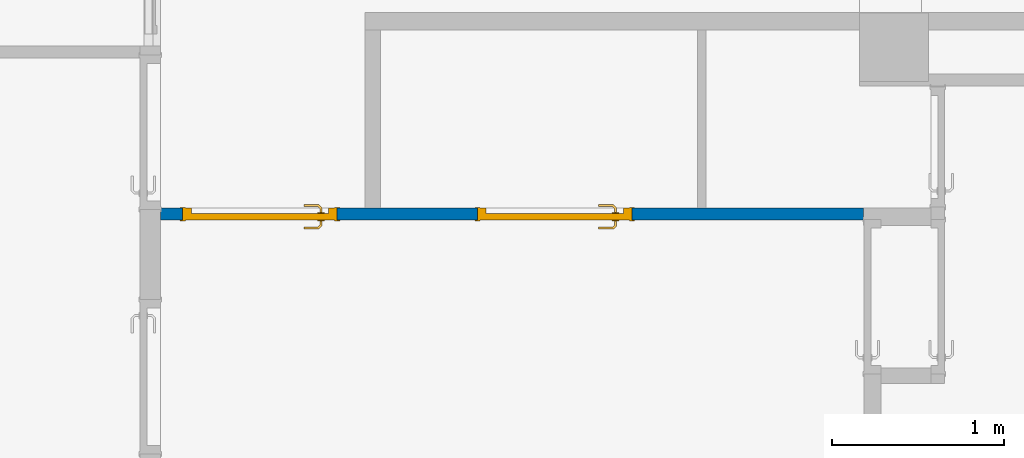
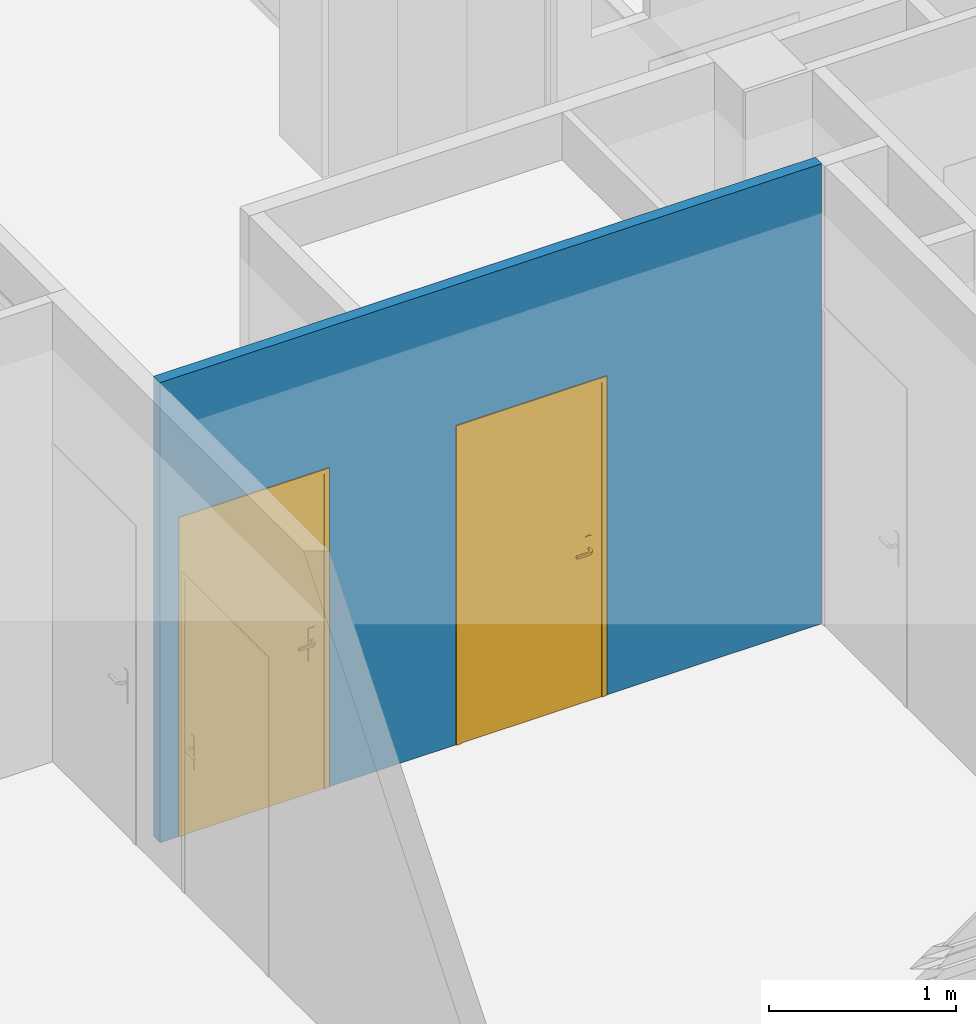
# One storey, part 56 of 97: 2 doors, 1 wall, 2 openings.
"""IFC4 building model written with IfcOpenShell, lengths in metres."""

from ifc_helpers import new_model, entity, si_unit, converted_unit, derived_unit, direction, frame, origin, place, context, subcontext, project, spatial, indexed_curve, outline, extrude, polygons, source, transform, mapped, material, material_list, layer, layer_set, constituent, constituent_set, type_object, type_shapes, element, fill, save


model = new_model("IFC4")

# Units and contexts
model_context = context("Model", 3, precision=1e-05, world=origin(), true_north=direction((6.12303176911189e-17, 1.0)))
body_context = subcontext(model_context, "Body", "Model", "MODEL_VIEW")
ifc_project = project(units=[si_unit("LENGTHUNIT", "METRE"), si_unit("AREAUNIT", "SQUARE_METRE"), si_unit("VOLUMEUNIT", "CUBIC_METRE"), converted_unit("PLANEANGLEUNIT", "DEGREE", entity("IfcRatioMeasure", 0.0174532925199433), si_unit("PLANEANGLEUNIT", "RADIAN"), dimensions=[0, 0, 0, 0, 0, 0, 0]), si_unit("MASSUNIT", "GRAM", prefix="KILO"), derived_unit("MASSDENSITYUNIT", [(si_unit("MASSUNIT", "GRAM", prefix="KILO"), 1), (si_unit("LENGTHUNIT", "METRE"), -3)]), derived_unit("MOMENTOFINERTIAUNIT", [(si_unit("LENGTHUNIT", "METRE"), 4)]), si_unit("TIMEUNIT", "SECOND"), si_unit("FREQUENCYUNIT", "HERTZ"), si_unit("THERMODYNAMICTEMPERATUREUNIT", "DEGREE_CELSIUS"), derived_unit("THERMALTRANSMITTANCEUNIT", [(si_unit("MASSUNIT", "GRAM", prefix="KILO"), 1), (si_unit("THERMODYNAMICTEMPERATUREUNIT", "KELVIN"), -1), (si_unit("TIMEUNIT", "SECOND"), -3)]), derived_unit("VOLUMETRICFLOWRATEUNIT", [(si_unit("LENGTHUNIT", "METRE"), 3), (si_unit("TIMEUNIT", "SECOND"), -1)]), si_unit("ELECTRICCURRENTUNIT", "AMPERE"), si_unit("ELECTRICVOLTAGEUNIT", "VOLT"), si_unit("POWERUNIT", "WATT"), si_unit("FORCEUNIT", "NEWTON", prefix="KILO"), si_unit("ILLUMINANCEUNIT", "LUX"), si_unit("LUMINOUSFLUXUNIT", "LUMEN"), si_unit("LUMINOUSINTENSITYUNIT", "CANDELA"), derived_unit("USERDEFINED", [(si_unit("MASSUNIT", "GRAM", prefix="KILO"), -1), (si_unit("LENGTHUNIT", "METRE"), -2), (si_unit("TIMEUNIT", "SECOND"), 3), (si_unit("LUMINOUSFLUXUNIT", "LUMEN"), 1)]), derived_unit("LINEARVELOCITYUNIT", [(si_unit("LENGTHUNIT", "METRE"), 1), (si_unit("TIMEUNIT", "SECOND"), -1)]), si_unit("PRESSUREUNIT", "PASCAL"), derived_unit("USERDEFINED", [(si_unit("LENGTHUNIT", "METRE"), -2), (si_unit("MASSUNIT", "GRAM", prefix="KILO"), 1), (si_unit("TIMEUNIT", "SECOND"), -2)]), derived_unit("LINEARFORCEUNIT", [(si_unit("MASSUNIT", "GRAM", prefix="KILO"), 1), (si_unit("LENGTHUNIT", "METRE"), 1), (si_unit("TIMEUNIT", "SECOND"), -2), (si_unit("LENGTHUNIT", "METRE"), -1)]), derived_unit("PLANARFORCEUNIT", [(si_unit("MASSUNIT", "GRAM", prefix="KILO"), 1), (si_unit("LENGTHUNIT", "METRE"), 1), (si_unit("TIMEUNIT", "SECOND"), -2), (si_unit("LENGTHUNIT", "METRE"), -2)])], contexts=[model_context])

# Site, building, storey
site_placement = place(None, origin())
site = spatial("IfcSite", under=ifc_project, at=site_placement, Name="Default", CompositionType="ELEMENT")
building_placement = place(site_placement, origin())
building = spatial("IfcBuilding", under=site, at=building_placement, Name="HOTEL CONSULAIRE BOULOGNE SUR MER", CompositionType="ELEMENT")
storey_placement = place(building_placement, frame((0.0, 0.0, 3.62152697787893)))
storey = spatial("IfcBuildingStorey", under=building, at=storey_placement, Name="Niveau 1", CompositionType="ELEMENT", Elevation=3.62152697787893)

# Wall, openings, doors
ifc_material_1 = material(Name="Mur par défaut", Category="Divers")
ifc_layer = layer(ifc_material_1, 0.07, Name="Mur par défaut", Category="Divers")
ifc_layer_set = layer_set([ifc_layer], Name="Mur de base:Int. Plâtre 70 mm")
wall_type = type_object("IfcWallType", Name="Mur de base:Int. Plâtre 70 mm", PredefinedType="NOTDEFINED", material=ifc_layer_set)
wall_placement = place(storey_placement, frame((-9.60440198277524, -24.988647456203, 0.0)))
wall = element("IfcWall", 1, at=wall_placement, inside=storey, type_object=wall_type, material=ifc_layer_set, Name="Mur de base:Int. Plâtre 70 mm", ObjectType="Mur de base:Int. Plâtre 70 mm", PredefinedType="NOTDEFINED", context=body_context, shape_type="Tessellation", body=[
    polygons([(0.128999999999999, -0.0350000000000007, 0.0), (-2.36826614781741e-15, -0.0350000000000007, 0.0), (-2.56762433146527e-15, 0.0350000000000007, 0.0), (0.128999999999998, 0.0350000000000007, 0.0), (1.8456288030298, -0.0350000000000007, 0.0), (1.029, -0.035000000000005, 0.0), (1.029, 0.0350000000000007, 0.0), (1.8456288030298, 0.0350000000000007, 0.0), (4.09362880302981, -0.035000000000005, 3.01021454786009), (-2.02531889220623e-16, -0.0350000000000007, 3.01021454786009), (0.128999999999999, -0.0350000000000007, 2.075), (1.029, -0.035000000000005, 2.075), (1.84562880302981, -0.0350000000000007, 2.075), (2.74562880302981, -0.035000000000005, 2.075), (2.74562880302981, -0.035000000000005, 0.0), (4.09362880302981, -0.035000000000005, 0.0), (6.8097705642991e-16, 0.0350000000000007, 3.01021454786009), (1.1912647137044, 0.0349999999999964, 3.01021454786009), (1.2812647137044, 0.0350000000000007, 3.01021454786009), (3.12762880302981, 0.0350000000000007, 3.01021454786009), (3.17762880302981, 0.0350000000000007, 3.01021454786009), (4.0936288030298, 0.0349999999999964, 3.01021454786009), (4.0936288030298, 0.0349999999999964, 0.0), (3.17762880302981, 0.0350000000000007, 0.0), (3.12762880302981, 0.0350000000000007, 0.0), (2.74562880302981, 0.0349999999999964, 0.0), (2.74562880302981, 0.0349999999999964, 2.075), (1.84562880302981, 0.0350000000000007, 2.075), (1.029, 0.0349999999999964, 2.075), (0.128999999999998, 0.0350000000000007, 2.075)], [[[4, 1, 2, 3]], [[8, 5, 6, 7]], [[14, 13, 28, 27]], [[12, 11, 30, 29]], [[24, 23, 16, 15, 26, 25]], [[11, 12, 6, 5, 13, 14, 15, 16, 9, 10, 2, 1]], [[27, 28, 8, 7, 29, 30, 4, 3, 17, 18, 19, 20, 21, 22, 23, 24, 25, 26]], [[9, 16, 23, 22]], [[13, 5, 8, 28]], [[11, 1, 4, 30]], [[9, 22, 21, 20, 19, 18, 17, 10]], [[15, 14, 27, 26]], [[6, 12, 29, 7]], [[10, 17, 3, 2]]], closed=True),
])
opening_1_placement = place(wall_placement, frame((2.7456288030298, 0.0349999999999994, 0.0)))
opening_1 = element("IfcOpeningElement", 2, at=opening_1_placement, cuts=wall, Name="Int. Simple:PP (0.83m x 2.04m):1", ObjectType="Opening", PredefinedType="OPENING", context=body_context, shape_type="SweptSolid", body=[
    extrude(outline(indexed_curve([(0.0, 0.9), (0.0, 0.0), (2.075, 0.0), (2.075, 0.9), (0.0, 0.9)], self_intersect=False)), frame((0.0, 0.0, 0.0), z_axis=(0.0, -1.0, 0.0), x_axis=(0.0, 0.0, 1.0)), (0.0, 0.0, 1.0), 0.07),
])
opening_2_placement = place(wall_placement, frame((1.029, 0.0349999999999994, 0.0)))
opening_2 = element("IfcOpeningElement", 3, at=opening_2_placement, cuts=wall, Name="Int. Simple:PP (0.83m x 2.04m):1", ObjectType="Opening", PredefinedType="OPENING", context=body_context, shape_type="SweptSolid", body=[
    extrude(outline(indexed_curve([(0.0, 0.9), (0.0, 0.0), (2.075, 0.0), (2.075, 0.9), (0.0, 0.9)], self_intersect=False)), frame((0.0, 0.0, 0.0), z_axis=(0.0, -1.0, 0.0), x_axis=(0.0, 0.0, 1.0)), (0.0, 0.0, 1.0), 0.07),
])
ifc_material_2 = material(Name="Finition Peinture - Blanc satiné", Category="Peinture")
ifc_constituent_1 = constituent(ifc_material_2, Name="Finition Peinture - Blanc satiné", Category="Matériaux")
ifc_material_3 = material(Name="Bois - Panneau de porte", Category="Bois")
ifc_constituent_2 = constituent(ifc_material_3, Name="Bois - Panneau de porte", Category="Matériaux")
ifc_material_4 = material(Name="Bois - Cadre de porte", Category="Bois")
ifc_constituent_3 = constituent(ifc_material_4, Name="Bois - Cadre de porte", Category="Matériaux")
ifc_constituent_set_1 = constituent_set(constituents=[ifc_constituent_1, ifc_constituent_2, ifc_constituent_3], Name="MaterialConstituentSet")
ifc_material_list = material_list([ifc_material_4, ifc_material_4, ifc_material_3, ifc_material_2])
door_type = type_object("IfcDoorType", Name="Int. Simple:PP (0.83m x 2.04m)", OperationType="NOTDEFINED", PredefinedType="DOOR", material=ifc_material_list)
shared_shape = source(origin(), body_context, "Body", "Tessellation", [
    polygons([(0.895000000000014, -0.00500000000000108, 0.870000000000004), (0.895000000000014, -0.00500000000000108, 1.08), (0.885352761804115, -0.00500000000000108, 1.08399601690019), (0.875000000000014, -0.00500000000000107, 1.08535898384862), (0.864647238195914, -0.00500000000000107, 1.08399601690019), (0.855000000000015, -0.00500000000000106, 1.08), (0.855000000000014, -0.00500000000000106, 0.870000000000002), (0.864647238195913, -0.00500000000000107, 0.866003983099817), (0.875000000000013, -0.00500000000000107, 0.86464101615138), (0.885352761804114, -0.00500000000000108, 0.866003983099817), (0.895000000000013, -1.07440722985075e-15, 0.870000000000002), (0.885352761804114, -1.07017728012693e-15, 0.866003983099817), (0.875000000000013, -1.06594733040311e-15, 0.86464101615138), (0.864647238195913, -1.06171738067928e-15, 0.866003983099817), (0.855000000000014, -1.05748743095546e-15, 0.870000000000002), (0.855000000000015, -1.05748743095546e-15, 1.08), (0.864647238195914, -1.06171738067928e-15, 1.08399601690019), (0.875000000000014, -1.06594733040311e-15, 1.08535898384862), (0.885352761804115, -1.07017728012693e-15, 1.08399601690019), (0.895000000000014, -1.07440722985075e-15, 1.08)], [[[1, 2, 3, 4, 5, 6, 7, 8, 9, 10]], [[20, 11, 12, 13, 14, 15, 16, 17, 18, 19]], [[10, 12, 11, 1]], [[9, 13, 12, 10]], [[8, 14, 13, 9]], [[8, 7, 15, 14]], [[15, 7, 6, 16]], [[5, 17, 16, 6]], [[4, 18, 17, 5]], [[3, 19, 18, 4]], [[3, 2, 20, 19]], [[11, 20, 2, 1]]], closed=True),
    polygons([(0.855000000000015, 0.0399999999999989, 1.08), (0.855000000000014, 0.0399999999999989, 0.870000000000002), (0.864647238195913, 0.0399999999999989, 0.866003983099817), (0.875000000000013, 0.0399999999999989, 0.86464101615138), (0.885352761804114, 0.0399999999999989, 0.866003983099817), (0.895000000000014, 0.0399999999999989, 0.870000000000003), (0.895000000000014, 0.0399999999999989, 1.08), (0.885352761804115, 0.0399999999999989, 1.08399601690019), (0.875000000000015, 0.0399999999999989, 1.08535898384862), (0.864647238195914, 0.0399999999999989, 1.08399601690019), (0.855000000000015, 0.0449999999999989, 1.08), (0.864647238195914, 0.0449999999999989, 1.08399601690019), (0.875000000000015, 0.0449999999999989, 1.08535898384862), (0.885352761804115, 0.0449999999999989, 1.08399601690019), (0.895000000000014, 0.0449999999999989, 1.08), (0.895000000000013, 0.0449999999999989, 0.870000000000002), (0.885352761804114, 0.0449999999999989, 0.866003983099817), (0.875000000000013, 0.0449999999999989, 0.86464101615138), (0.864647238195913, 0.0449999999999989, 0.866003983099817), (0.855000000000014, 0.0449999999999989, 0.870000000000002)], [[[6, 7, 8, 9, 10, 1, 2, 3, 4, 5]], [[13, 14, 15, 16, 17, 18, 19, 20, 11, 12]], [[10, 12, 11, 1]], [[9, 13, 12, 10]], [[8, 14, 13, 9]], [[8, 7, 15, 14]], [[16, 15, 7, 6]], [[5, 17, 16, 6]], [[4, 18, 17, 5]], [[3, 19, 18, 4]], [[3, 2, 20, 19]], [[20, 2, 1, 11]]], closed=True),
    polygons([(0.881000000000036, -0.00500000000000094, 1.00699999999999), (0.881000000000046, -0.00500000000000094, 0.992999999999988), (0.877025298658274, -0.00500000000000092, 0.99221955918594), (0.872974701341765, -0.00500000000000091, 0.992219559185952), (0.868999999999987, -0.00500000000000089, 0.993000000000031), (0.868999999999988, -0.00500000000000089, 1.007), (0.872974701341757, -0.00500000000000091, 1.00778044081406), (0.877025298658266, -0.00500000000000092, 1.00778044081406), (0.868999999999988, -0.0276803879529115, 1.007), (0.872974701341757, -0.0293267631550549, 1.00778044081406), (0.877025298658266, -0.0310045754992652, 1.00778044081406), (0.881000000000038, -0.0326509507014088, 1.007), (0.868999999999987, -0.0276803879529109, 0.993000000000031), (0.881000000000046, -0.0326509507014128, 0.992999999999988), (0.877025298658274, -0.0310045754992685, 0.99221955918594), (0.872974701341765, -0.0293267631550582, 0.992219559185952), (0.85765222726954, -0.0390281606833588, 1.007), (0.859298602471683, -0.0430028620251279, 1.00778044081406), (0.860976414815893, -0.0470534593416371, 1.00778044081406), (0.862622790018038, -0.051028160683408, 1.007), (0.857652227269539, -0.0390281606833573, 0.993000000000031), (0.862622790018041, -0.0510281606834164, 0.992999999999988), (0.860976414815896, -0.0470534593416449, 0.99221955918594), (0.859298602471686, -0.0430028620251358, 0.992219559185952), (0.774981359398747, -0.0510281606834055, 1.007), (0.774981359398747, -0.0470534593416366, 1.00778044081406), (0.774981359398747, -0.0430028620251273, 1.00778044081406), (0.774981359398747, -0.0390281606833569, 1.00699999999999), (0.774981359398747, -0.0390281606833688, 0.993000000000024), (0.774981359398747, -0.0430028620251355, 0.992219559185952), (0.774981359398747, -0.0470534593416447, 0.99221955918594), (0.774981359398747, -0.0510281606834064, 0.992999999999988), (0.822692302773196, -0.051028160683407, 1.007), (0.81713998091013, -0.045028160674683, 1.0078786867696), (0.816316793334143, -0.039028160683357, 1.007), (0.822692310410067, -0.0510281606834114, 0.992999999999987), (0.817139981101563, -0.0450281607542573, 0.992121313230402), (0.816316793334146, -0.039028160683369, 0.993000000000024)], [[[7, 8, 1, 2, 3, 4, 5, 6]], [[17, 21, 38, 29, 28, 35]], [[1, 8, 11, 12]], [[8, 7, 10, 18, 19, 11]], [[7, 6, 9, 10]], [[13, 9, 6, 5]], [[25, 26, 27, 28, 29, 30, 31, 32]], [[4, 16, 13, 5]], [[4, 3, 15, 23, 24, 16]], [[2, 14, 15, 3]], [[12, 14, 2, 1]], [[12, 11, 19, 20]], [[10, 9, 17, 18]], [[21, 17, 9, 13]], [[13, 16, 24, 21]], [[15, 14, 22, 23]], [[20, 22, 14, 12]], [[34, 26, 33]], [[33, 26, 25]], [[33, 20, 19]], [[18, 35, 34]], [[35, 18, 17]], [[28, 27, 35]], [[34, 27, 26]], [[34, 35, 27]], [[34, 33, 19]], [[18, 34, 19]], [[37, 30, 38]], [[31, 37, 36]], [[24, 38, 21]], [[30, 29, 38]], [[31, 36, 32]], [[36, 23, 22]], [[37, 23, 36]], [[37, 24, 23]], [[37, 38, 24]], [[30, 37, 31]], [[22, 20, 33, 25, 32, 36]]], closed=True),
    polygons([(0.868999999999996, 0.0449999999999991, 0.993000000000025), (0.872974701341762, 0.0449999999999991, 0.992219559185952), (0.877025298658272, 0.044999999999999, 0.99221955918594), (0.881000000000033, 0.044999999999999, 0.992999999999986), (0.881000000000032, 0.044999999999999, 1.007), (0.877025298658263, 0.044999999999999, 1.00778044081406), (0.872974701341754, 0.0449999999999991, 1.00778044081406), (0.868999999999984, 0.0449999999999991, 1.007), (0.868999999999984, 0.067485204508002, 1.007), (0.868999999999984, 0.0674852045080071, 0.993000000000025), (0.881000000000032, 0.0724557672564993, 1.007), (0.877025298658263, 0.070809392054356, 1.00778044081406), (0.872974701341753, 0.0691315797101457, 1.00778044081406), (0.881000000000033, 0.0724557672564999, 0.992999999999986), (0.872974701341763, 0.0691315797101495, 0.992219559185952), (0.877025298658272, 0.0708093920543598, 0.99221955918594), (0.857514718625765, 0.0789704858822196, 1.007), (0.857514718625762, 0.0789704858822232, 0.993000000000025), (0.862485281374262, 0.0909704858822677, 1.007), (0.860838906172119, 0.0869957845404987, 1.00778044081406), (0.859161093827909, 0.0829451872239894, 1.00778044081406), (0.862485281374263, 0.0909704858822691, 0.992999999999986), (0.859161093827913, 0.0829451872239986, 0.992219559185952), (0.860838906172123, 0.0869957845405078, 0.99221955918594), (0.77495421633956, 0.0789704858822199, 0.993000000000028), (0.77495421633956, 0.0789704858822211, 1.007), (0.77495421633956, 0.0829451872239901, 1.00778044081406), (0.77495421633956, 0.0869957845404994, 1.00778044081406), (0.77495421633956, 0.0909704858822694, 1.007), (0.77495421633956, 0.0909704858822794, 0.992999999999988), (0.77495421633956, 0.086995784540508, 0.99221955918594), (0.77495421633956, 0.0829451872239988, 0.992219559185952), (0.822554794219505, 0.0909704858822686, 1.007), (0.817057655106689, 0.0849704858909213, 1.0078786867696), (0.816234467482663, 0.0789704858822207, 1.007), (0.822554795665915, 0.0909704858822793, 0.992999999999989), (0.817057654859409, 0.0849704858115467, 0.992121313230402), (0.816234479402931, 0.0789704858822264, 0.993000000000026)], [[[2, 3, 4, 5, 6, 7, 8, 1]], [[18, 17, 35, 26, 25, 38]], [[9, 10, 1, 8]], [[27, 28, 29, 30, 31, 32, 25, 26]], [[7, 13, 9, 8]], [[7, 6, 12, 20, 21, 13]], [[5, 11, 12, 6]], [[11, 5, 4, 14]], [[4, 3, 16, 14]], [[3, 2, 15, 23, 24, 16]], [[2, 1, 10, 15]], [[17, 18, 10, 9]], [[9, 13, 21, 17]], [[11, 19, 20, 12]], [[22, 19, 11, 14]], [[14, 16, 24, 22]], [[15, 10, 18, 23]], [[34, 27, 35]], [[28, 34, 33]], [[21, 35, 17]], [[27, 26, 35]], [[28, 33, 29]], [[33, 20, 19]], [[34, 20, 33]], [[34, 21, 20]], [[34, 35, 21]], [[27, 34, 28]], [[19, 22, 36, 30, 29, 33]], [[37, 31, 36]], [[36, 31, 30]], [[36, 22, 24]], [[23, 38, 37]], [[38, 23, 18]], [[25, 32, 38]], [[37, 32, 31]], [[37, 38, 32]], [[37, 36, 24]], [[23, 37, 24]]], closed=True),
    polygons([(0.935000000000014, 0.04, 2.04), (0.935000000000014, 0.04, 0.0), (0.105000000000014, 0.04, 0.0), (0.105000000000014, 0.04, 2.04), (0.935000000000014, 2.53796983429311e-17, 2.04), (0.105000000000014, 2.53796983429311e-17, 2.04), (0.105000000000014, 2.53796983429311e-17, 0.0), (0.935000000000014, 2.53796983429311e-17, 0.0)], [[[3, 4, 1, 2]], [[5, 6, 7, 8]], [[5, 1, 4, 6]], [[6, 4, 3, 7]], [[8, 7, 3, 2]], [[8, 2, 1, 5]]], closed=True),
    polygons([(0.970000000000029, -4.22994972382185e-18, 0.0), (0.935000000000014, -4.22994972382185e-18, 0.0), (0.935000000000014, 0.04, 0.0), (0.920000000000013, 0.04, 0.0), (0.920000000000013, 0.0699999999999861, 0.0), (0.970000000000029, 0.0699999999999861, 0.0), (0.970000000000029, 0.0699999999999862, 2.07500000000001), (0.970000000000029, -4.22994972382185e-18, 2.07500000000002), (0.920000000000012, 0.0699999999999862, 2.025), (0.120000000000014, 0.0699999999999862, 2.025), (0.120000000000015, 0.0699999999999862, -4.08259727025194e-24), (0.0699999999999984, 0.0699999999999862, 5.8808818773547e-24), (0.0699999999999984, 0.0699999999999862, 2.07500000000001), (0.920000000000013, 0.04, 2.025), (0.935000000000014, 0.04, 2.04), (0.105000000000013, 0.04, 2.04), (0.105000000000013, 0.04, -2.52000145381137e-24), (0.120000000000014, 0.04, 1.99209647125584e-25), (0.120000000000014, 0.04, 2.025), (0.935000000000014, -4.22994972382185e-18, 2.04), (0.0699999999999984, -4.22994972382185e-18, 2.07500000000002), (0.0699999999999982, -4.22994972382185e-18, -3.95490699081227e-25), (0.105000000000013, -4.22994972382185e-18, -1.26556696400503e-24), (0.105000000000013, -4.22994972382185e-18, 2.04)], [[[4, 5, 6, 1, 2, 3]], [[17, 23, 22, 12, 11, 18]], [[19, 10, 9, 14]], [[24, 16, 15, 20]], [[7, 8, 1, 6]], [[11, 10, 19, 18]], [[23, 17, 16, 24]], [[9, 10, 11, 12, 13, 7, 6, 5]], [[9, 5, 4, 14]], [[15, 3, 2, 20]], [[12, 22, 21, 13]], [[19, 14, 4, 3, 15, 16, 17, 18]], [[24, 20, 2, 1, 8, 21, 22, 23]], [[13, 21, 8, 7]]], closed=True),
    polygons([(0.955000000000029, 0.0699999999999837, 1.35358391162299e-16), (0.955000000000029, 0.0749999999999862, 1.35358391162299e-16), (0.985000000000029, 0.0749999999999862, 1.35358391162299e-16), (0.985000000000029, 0.0699999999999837, 1.35358391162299e-16), (0.985000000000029, 0.0699999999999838, 2.09000000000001), (0.0550000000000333, 0.0699999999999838, 2.09000000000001), (0.0550000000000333, 0.0699999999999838, -4.03399441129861e-24), (0.0850000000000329, 0.0699999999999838, 4.03399441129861e-24), (0.0850000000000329, 0.0699999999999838, 2.06000000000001), (0.955000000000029, 0.0699999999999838, 2.06000000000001), (0.985000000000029, 0.0749999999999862, 2.09000000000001), (0.955000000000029, 0.0749999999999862, 2.06000000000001), (0.0850000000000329, 0.0749999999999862, 2.06000000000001), (0.0850000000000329, 0.0749999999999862, 0.0), (0.0550000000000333, 0.0749999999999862, -4.03399441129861e-24), (0.0550000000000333, 0.0749999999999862, 2.09000000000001)], [[[2, 3, 4, 1]], [[7, 15, 14, 8]], [[13, 12, 10, 9]], [[9, 10, 1, 4, 5, 6, 7, 8]], [[11, 5, 4, 3]], [[8, 14, 13, 9]], [[12, 13, 14, 15, 16, 11, 3, 2]], [[10, 12, 2, 1]], [[15, 7, 6, 16]], [[16, 6, 5, 11]]], closed=True),
    polygons([(0.955000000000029, -0.005, 1.35358391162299e-16), (0.955000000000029, -8.33300095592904e-16, 1.35358391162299e-16), (0.985000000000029, -8.33300095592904e-16, 1.35358391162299e-16), (0.985000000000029, -0.005, 1.35358391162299e-16), (0.0850000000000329, -0.005, -1.35358391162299e-16), (0.0550000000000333, -0.005, -1.35358391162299e-16), (0.0550000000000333, -8.33300095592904e-16, -1.35358391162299e-16), (0.0850000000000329, -8.33300095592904e-16, -1.35358391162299e-16), (0.985000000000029, -0.005, 2.09000000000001), (0.0550000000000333, -0.005, 2.09000000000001), (0.0850000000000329, -0.005, 2.06000000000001), (0.955000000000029, -0.005, 2.06000000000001), (0.985000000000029, -8.33300095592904e-16, 2.09000000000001), (0.955000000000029, -8.33300095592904e-16, 2.06000000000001), (0.0850000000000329, -8.33300095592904e-16, 2.06000000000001), (0.0550000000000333, -8.33300095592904e-16, 2.09000000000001)], [[[2, 3, 4, 1]], [[6, 7, 8, 5]], [[15, 14, 12, 11]], [[11, 12, 1, 4, 9, 10, 6, 5]], [[9, 4, 3, 13]], [[5, 8, 15, 11]], [[14, 15, 8, 7, 16, 13, 3, 2]], [[12, 14, 2, 1]], [[6, 10, 16, 7]], [[10, 9, 13, 16]]], closed=True),
])
type_shapes(door_type, [shared_shape])
door_1_placement = place(opening_1_placement, frame((-0.970000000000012, -0.0700000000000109, 0.0)))
door_1 = element("IfcDoor", 4, at=door_1_placement, inside=storey, type_object=door_type, material=ifc_constituent_set_1, Name="Int. Simple:PP (0.83m x 2.04m)", ObjectType="Int. Simple:PP (0.83m x 2.04m)", OperationType="NOTDEFINED", OverallHeight=2.075, OverallWidth=0.9, PredefinedType="DOOR", context=body_context, shape_type="MappedRepresentation", body=[
    mapped(shared_shape, transform((0.0, 0.0, 0.0), scale=1.0)),
])
fill(opening_1, door_1)
ifc_constituent_4 = constituent(ifc_material_2, Name="Finition Peinture - Blanc satiné", Category="Matériaux")
ifc_constituent_5 = constituent(ifc_material_3, Name="Bois - Panneau de porte", Category="Matériaux")
ifc_constituent_6 = constituent(ifc_material_4, Name="Bois - Cadre de porte", Category="Matériaux")
ifc_constituent_set_2 = constituent_set(constituents=[ifc_constituent_4, ifc_constituent_5, ifc_constituent_6], Name="MaterialConstituentSet")
door_2_placement = place(opening_2_placement, frame((-0.970000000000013, -0.0700000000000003, 0.0)))
door_2 = element("IfcDoor", 5, at=door_2_placement, inside=storey, type_object=door_type, material=ifc_constituent_set_2, Name="Int. Simple:PP (0.83m x 2.04m)", ObjectType="Int. Simple:PP (0.83m x 2.04m)", OperationType="NOTDEFINED", OverallHeight=2.075, OverallWidth=0.9, PredefinedType="DOOR", context=body_context, shape_type="MappedRepresentation", body=[
    mapped(shared_shape, transform((0.0, 0.0, 0.0), scale=1.0)),
])
fill(opening_2, door_2)

save(model, "model.ifc")
